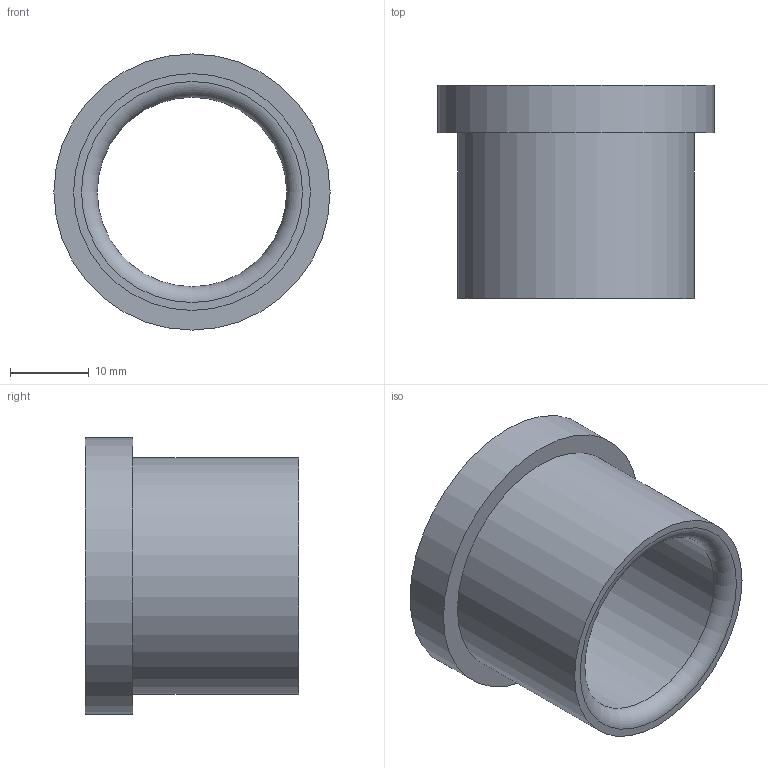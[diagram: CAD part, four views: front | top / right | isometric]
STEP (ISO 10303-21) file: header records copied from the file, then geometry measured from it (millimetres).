
FILE_DESCRIPTION(/* description */ ('STEP AP214'),/* implementation_level */ '2;1');
FILE_NAME(/* name */ '03_12_17934',/* time_stamp */ '2023-06-15T11:35:35+02:00',/* author */ ('License CC BY-ND 4.0'),/* organization */ ('CADENAS'),/* preprocessor_version */ 'ST-DEVELOPER v19.3',/* originating_system */ 'PARTsolutions',/* authorisation */ ' ');
FILE_SCHEMA (('AUTOMOTIVE_DESIGN {1 0 10303 214 3 1 1}'));
Length unit declared in the file: millimetre
Products named in the file (1): VA_Bushing_17934
Bounding box: 35 x 27 x 35 mm (x, y, z)
Volume: 8142.6 mm3; surface area: 5576.8 mm2
Topology: 1 solids, 1 shells, 10 faces, 16 edges, 10 vertices
Faces by surface type: cylinder 4, plane 4, torus 2
Full cylindrical faces by diameter (mm): 24 x1, 24.6 x1, 30 x1, 35 x1
Entity records: 302 total; most frequent: DIRECTION 42, CARTESIAN_POINT 31, AXIS2_PLACEMENT_3D 21, ORIENTED_EDGE 20, EDGE_LOOP 20, FACE_BOUND 20, EDGE_CURVE 10, VERTEX_POINT 10
